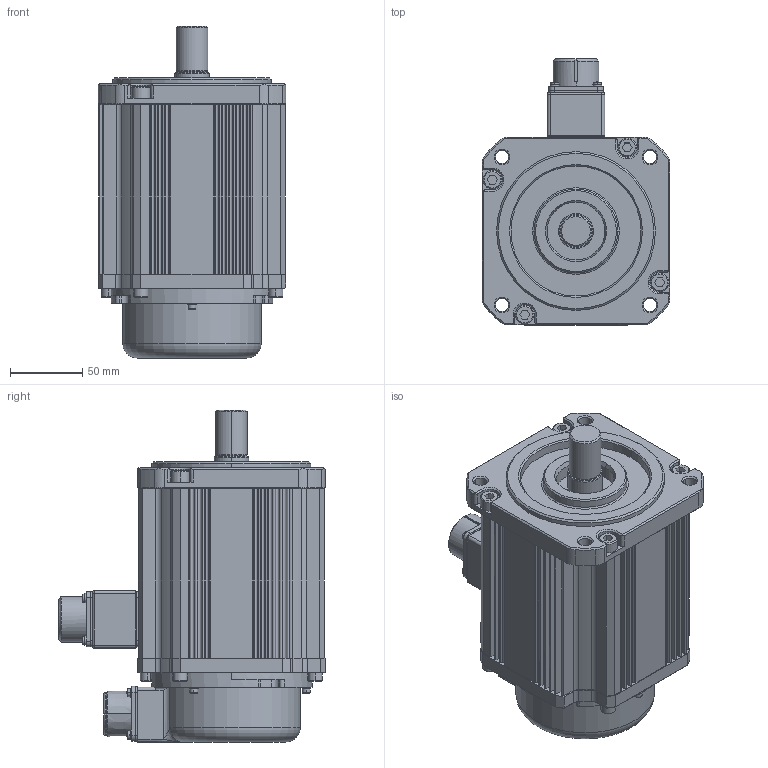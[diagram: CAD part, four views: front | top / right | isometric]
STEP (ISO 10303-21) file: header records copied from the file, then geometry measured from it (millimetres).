
FILE_DESCRIPTION((''),'2;1');
FILE_NAME('TSM1305N8000_OUTLINE','2022-06-14T09:07:02',('tec1068'),('Tamagawa Seiki Co.,LTD'),'CREO PARAMETRIC BY PTC INC, 2019030','CREO PARAMETRIC BY PTC INC, 2019030','');
FILE_SCHEMA(('AUTOMOTIVE_DESIGN { 1 0 10303 214 1 1 1 1 }'));
Length unit declared in the file: millimetre
Products named in the file (1): TSM1305N8000_OUTLINE
Bounding box: 130 x 184.5 x 230 mm (x, y, z)
Volume: 2518004.6 mm3; surface area: 173498.3 mm2
Topology: 2 solids, 6 shells, 1057 faces, 2715 edges, 1706 vertices
Faces by surface type: plane 507, cylinder 389, cone 92, sphere 51, torus 14, bspline 4
Entity records: 32720 total; most frequent: CARTESIAN_POINT 6273, DIRECTION 5787, ORIENTED_EDGE 5322, EDGE_CURVE 2661, AXIS2_PLACEMENT_3D 2164, VERTEX_POINT 1706, VECTOR 1459, LINE 1459
